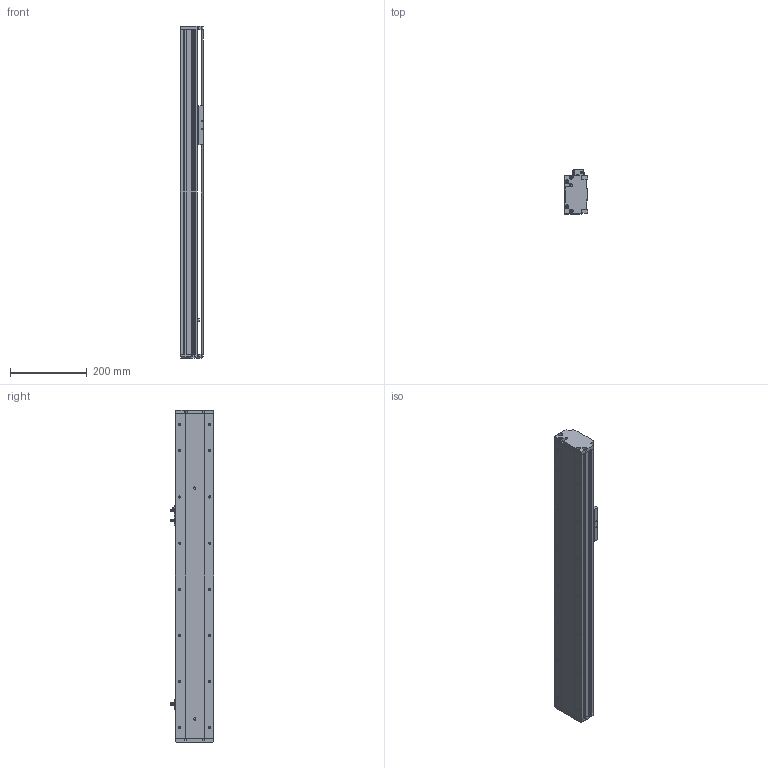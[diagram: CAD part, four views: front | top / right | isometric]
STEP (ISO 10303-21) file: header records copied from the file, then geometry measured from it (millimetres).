
FILE_DESCRIPTION (( 'STEP AP214' ), '1' );
FILE_NAME ('KSD100S-S500-M-CM.STEP', '2019-08-29T08:42:12', ( '微软用户' ), ( '微软中国' ), 'SwSTEP 2.0', 'SolidWorks 2014', '' );
FILE_SCHEMA (( 'AUTOMOTIVE_DESIGN' ));
Length unit declared in the file: millimetre
Products named in the file (8): 覜茼え100遵圉猾敕; U倰嫖萇EEㄜSX672; 100宽防尘板丝杆500行程电机内装; 100宽马达安装板-电机内装; 100宽滚珠螺姆安装板半封闭; 100遵傷啣; 100宽底板半封闭丝杆500行程电机内装; KSD100S-S500-M-CM
Assembly tree (9 placements, depth 2):
  KSD100S-S500-M-CM
    100宽底板半封闭丝杆500行程电机内装
    100遵傷啣
    100宽滚珠螺姆安装板半封闭
    100宽马达安装板-电机内装
    100宽防尘板丝杆500行程电机内装
    U倰嫖萇EEㄜSX672  x3
    覜茼え100遵圉猾敕
Bounding box: 60 x 113.7 x 863 mm (x, y, z)
Volume: 1693127.7 mm3; surface area: 614120.2 mm2
Topology: 9 solids, 9 shells, 1047 faces, 2982 edges, 1883 vertices
Faces by surface type: cylinder 486, plane 444, cone 117
Entity records: 36240 total; most frequent: CARTESIAN_POINT 7424, DIRECTION 4711, ORIENTED_EDGE 4632, EDGE_CURVE 2316, AXIS2_PLACEMENT_3D 1686, VERTEX_POINT 1507, VECTOR 1339, LINE 1339
